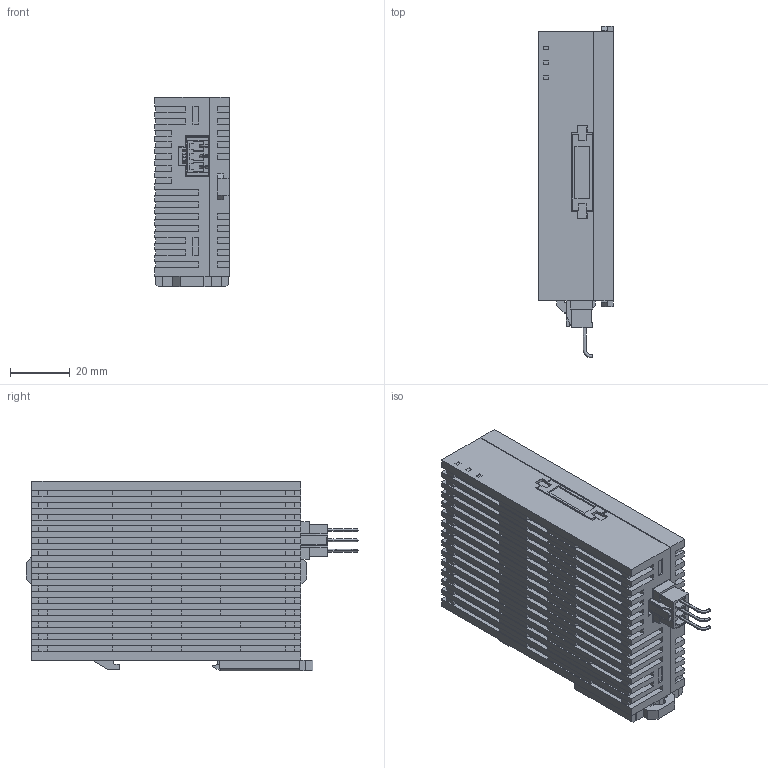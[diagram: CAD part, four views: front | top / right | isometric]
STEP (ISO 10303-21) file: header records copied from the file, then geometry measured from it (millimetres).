
FILE_DESCRIPTION (( 'STEP AP214' ), '1' );
FILE_NAME ('afpx-efp0.step', '2009-08-28T01:51:02', ( '' ), ( 'PanasonicElectricWorks' ), '', '', '' );
FILE_SCHEMA (( 'AUTOMOTIVE_DESIGN' ));
Length unit declared in the file: millimetre
Products named in the file (1): afpx-efp0
Bounding box: 25 x 111.19 x 63.5 mm (x, y, z)
Volume: 132668.4 mm3; surface area: 27594 mm2
Topology: 2 solids, 5 shells, 734 faces, 2064 edges, 1366 vertices
Faces by surface type: plane 691, cylinder 31, bspline 12
Entity records: 39500 total; most frequent: CARTESIAN_POINT 12481, ORIENTED_EDGE 4128, DIRECTION 3524, EDGE_CURVE 2064, LINE 1966, VECTOR 1966, VERTEX_POINT 1366, AXIS2_PLACEMENT_3D 779
